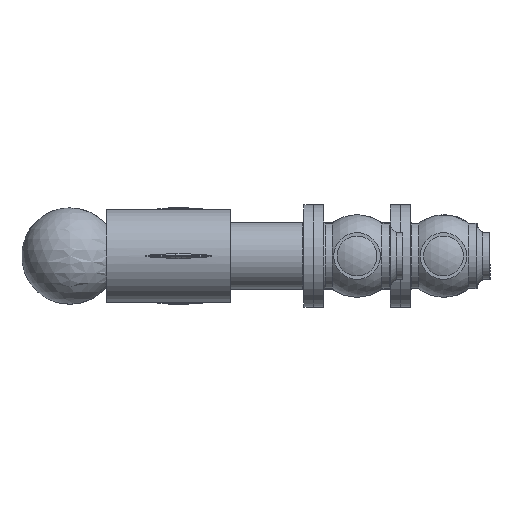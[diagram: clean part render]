
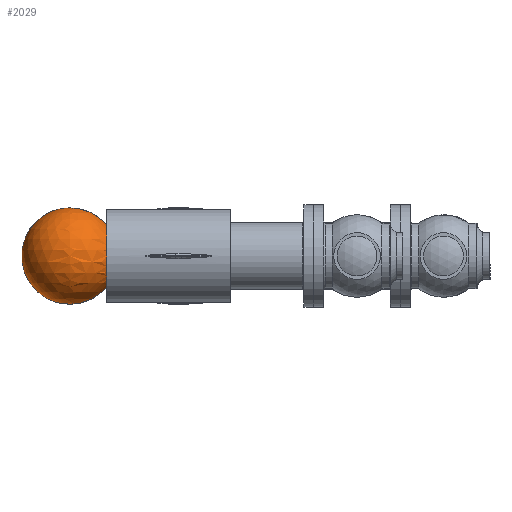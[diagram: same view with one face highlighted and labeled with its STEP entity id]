
A CAD part, left-side view. The second image highlights one B-rep face of the part: STEP entity #2029.
In plain terms, the highlighted spherical face has radius 72.5 mm.
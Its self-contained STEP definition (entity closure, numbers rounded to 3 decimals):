
#123=SPHERICAL_SURFACE('',#2367,72.5);
#375=FACE_BOUND('',#571,.T.);
#441=FACE_OUTER_BOUND('',#570,.T.);
#570=EDGE_LOOP('',(#1605,#1606));
#571=EDGE_LOOP('',(#1607));
#727=CIRCLE('',#2368,72.5);
#728=CIRCLE('',#2369,46.648);
#948=VERTEX_POINT('',#3906);
#949=VERTEX_POINT('',#3907);
#950=VERTEX_POINT('',#3909);
#1195=EDGE_CURVE('',#948,#949,#727,.T.);
#1196=EDGE_CURVE('',#950,#950,#728,.T.);
#1605=ORIENTED_EDGE('',*,*,#1195,.T.);
#1606=ORIENTED_EDGE('',*,*,#1195,.F.);
#1607=ORIENTED_EDGE('',*,*,#1196,.F.);
#2029=ADVANCED_FACE('',(#441,#375),#123,.T.);
#2367=AXIS2_PLACEMENT_3D('',#3905,#2853,#2854);
#2368=AXIS2_PLACEMENT_3D('',#3908,#2855,#2856);
#2369=AXIS2_PLACEMENT_3D('',#3910,#2857,#2858);
#2853=DIRECTION('center_axis',(0.,0.,1.));
#2854=DIRECTION('ref_axis',(1.,0.,0.));
#2855=DIRECTION('center_axis',(0.,-1.,0.));
#2856=DIRECTION('ref_axis',(-1.,0.,0.));
#2857=DIRECTION('center_axis',(0.,-1.,0.));
#2858=DIRECTION('ref_axis',(1.,0.,0.));
#3905=CARTESIAN_POINT('Origin',(150.,266.5,0.));
#3906=CARTESIAN_POINT('',(150.,266.5,72.5));
#3907=CARTESIAN_POINT('',(150.,266.5,-72.5));
#3908=CARTESIAN_POINT('Origin',(150.,266.5,0.));
#3909=CARTESIAN_POINT('',(196.648,211.,0.));
#3910=CARTESIAN_POINT('Origin',(150.,211.,0.));
